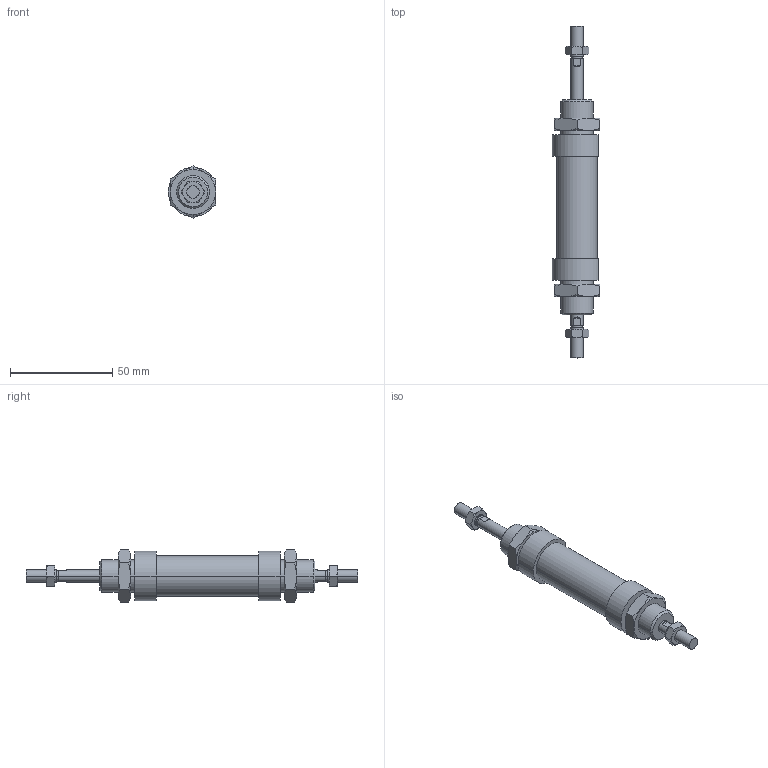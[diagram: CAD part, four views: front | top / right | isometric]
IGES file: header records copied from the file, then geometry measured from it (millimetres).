
Global section: file name: No Iges File Name specified; native system: AutoDesk Inventor R6.0; preprocessor: AutoDesk Inventor Iges Exporter R6.0; author: No Author specified; organization: No Organization specified; date: 20030403.072129; units: millimetre
Bounding box: 23 x 162 x 25.4 mm (x, y, z)
Volume: 36587.9 mm3; surface area: 15622.1 mm2
Topology: 6 solids, 6 shells, 180 faces, 388 edges, 228 vertices
Faces by surface type: cone 68, plane 56, bspline 30, cylinder 20, revolution 6
